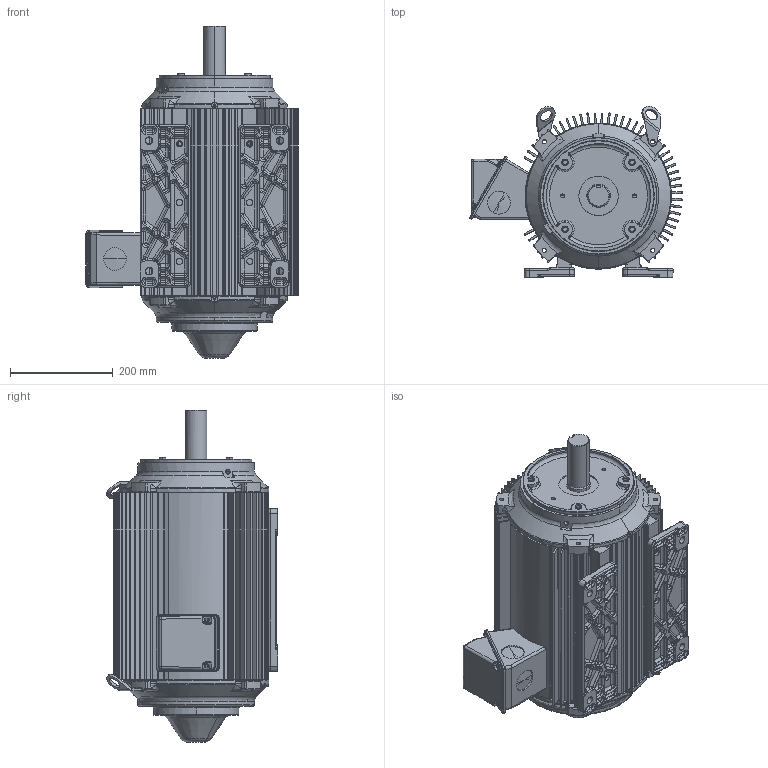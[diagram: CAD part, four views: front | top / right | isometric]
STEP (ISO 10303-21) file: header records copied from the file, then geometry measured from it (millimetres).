
FILE_DESCRIPTION((''),'2;1');
FILE_NAME('250_UNTX_ASM','2020-12-18T07:24:41',('EMD2341'),('Nidec Motor Corporation'),'CREO PARAMETRIC BY PTC INC, 2019080','CREO PARAMETRIC BY PTC INC, 2019080','');
FILE_SCHEMA(('CONFIG_CONTROL_DESIGN'));
Length unit declared in the file: inch
Products named in the file (16): 0369667_AF0; 0364229-OBB; 0362104; 0362103; 0370425-BKT_AF1; 0362224_AF1; 0370426_ASM; 0630482-BKT_AF1; 0360239_AF1; 0630483_ASM; 0622701; 0172877; 0630474; 0364236; 0369733; 250_UNTX_ASM
Assembly tree (16 placements, depth 3):
  250_UNTX_ASM
    0369667_AF0
    0364229-OBB
    0362104
    0362103
    0370426_ASM
      0370425-BKT_AF1
      0362224_AF1
    0630483_ASM
      0630482-BKT_AF1
      0360239_AF1
    0622701
    0172877
    0630474
    0364236
    0369733  x2
Bounding box: 412.73 x 332.48 x 645.34 mm (x, y, z)
Volume: 7710140.7 mm3; surface area: 2485605.7 mm2
Topology: 16 solids, 28 shells, 3335 faces, 7960 edges, 4699 vertices
Faces by surface type: cylinder 1063, bspline 801, plane 699, cone 301, torus 271, sphere 196, extrusion 4
Entity records: 133875 total; most frequent: CARTESIAN_POINT 61654, ORIENTED_EDGE 15702, DIRECTION 14348, EDGE_CURVE 7874, AXIS2_PLACEMENT_3D 5864, VERTEX_POINT 4675, EDGE_LOOP 3516, FACE_OUTER_BOUND 3317
